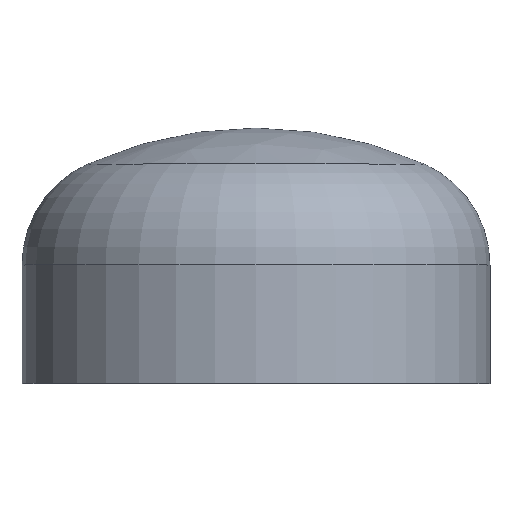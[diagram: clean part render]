
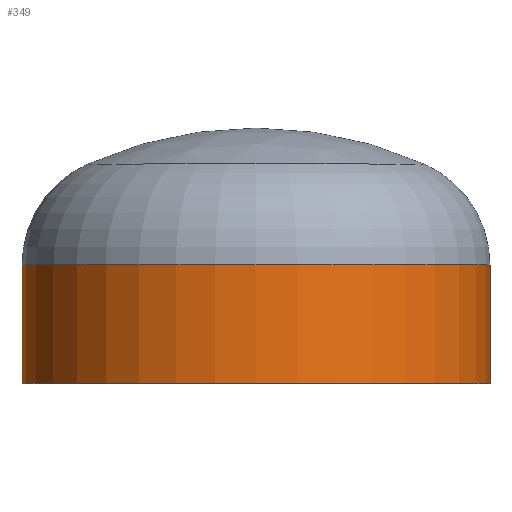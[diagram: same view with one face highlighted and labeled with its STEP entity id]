
A CAD part, top view. The second image highlights one B-rep face of the part: STEP entity #349.
In plain terms, the highlighted cylindrical face has radius 177.8 mm (diameter 355.6 mm), a partial arc.
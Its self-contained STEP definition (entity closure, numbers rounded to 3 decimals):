
#1 = AXIS2_PLACEMENT_3D ( 'NONE', #220, #171, #268 ) ;
#23 = ORIENTED_EDGE ( 'NONE', *, *, #108, .T. ) ;
#35 = VERTEX_POINT ( 'NONE', #262 ) ;
#46 = ORIENTED_EDGE ( 'NONE', *, *, #363, .F. ) ;
#53 = CIRCLE ( 'NONE', #107, 177.8 ) ;
#59 = EDGE_LOOP ( 'NONE', ( #318, #23, #46, #90 ) ) ;
#63 = VERTEX_POINT ( 'NONE', #283 ) ;
#68 = VERTEX_POINT ( 'NONE', #241 ) ;
#78 = CIRCLE ( 'NONE', #266, 177.8 ) ;
#87 = CARTESIAN_POINT ( 'NONE',  ( 0., 0., 0. ) ) ;
#90 = ORIENTED_EDGE ( 'NONE', *, *, #381, .F. ) ;
#92 = VERTEX_POINT ( 'NONE', #240 ) ;
#107 = AXIS2_PLACEMENT_3D ( 'NONE', #331, #329, #322 ) ;
#108 = EDGE_CURVE ( 'NONE', #68, #63, #134, .T. ) ;
#113 = EDGE_CURVE ( 'NONE', #92, #68, #53, .T. ) ;
#134 = LINE ( 'NONE', #221, #368 ) ;
#151 = DIRECTION ( 'NONE',  ( 0., -1., 0. ) ) ;
#153 = DIRECTION ( 'NONE',  ( 1., 0., 0. ) ) ;
#171 = DIRECTION ( 'NONE',  ( 0., -1., 0. ) ) ;
#217 = VECTOR ( 'NONE', #389, 1000. ) ;
#218 = DIRECTION ( 'NONE',  ( 0., -1., 0. ) ) ;
#220 = CARTESIAN_POINT ( 'NONE',  ( 0., 0., 0. ) ) ;
#221 = CARTESIAN_POINT ( 'NONE',  ( -177.8, 0., 0. ) ) ;
#226 = CARTESIAN_POINT ( 'NONE',  ( 177.8, 0., 0. ) ) ;
#240 = CARTESIAN_POINT ( 'NONE',  ( 177.8, 90., 0. ) ) ;
#241 = CARTESIAN_POINT ( 'NONE',  ( -177.8, 90., 0. ) ) ;
#262 = CARTESIAN_POINT ( 'NONE',  ( 177.8, 0., 0. ) ) ;
#266 = AXIS2_PLACEMENT_3D ( 'NONE', #87, #151, #153 ) ;
#268 = DIRECTION ( 'NONE',  ( 1., 0., 0. ) ) ;
#281 = LINE ( 'NONE', #226, #217 ) ;
#283 = CARTESIAN_POINT ( 'NONE',  ( -177.8, 0., 0. ) ) ;
#288 = CYLINDRICAL_SURFACE ( 'NONE', #1, 177.8 ) ;
#318 = ORIENTED_EDGE ( 'NONE', *, *, #113, .T. ) ;
#322 = DIRECTION ( 'NONE',  ( 1., 0., 0. ) ) ;
#329 = DIRECTION ( 'NONE',  ( 0., -1., 0. ) ) ;
#331 = CARTESIAN_POINT ( 'NONE',  ( 0., 90., 0. ) ) ;
#349 = ADVANCED_FACE ( 'NONE', ( #400 ), #288, .T. ) ;
#363 = EDGE_CURVE ( 'NONE', #35, #63, #78, .T. ) ;
#368 = VECTOR ( 'NONE', #218, 1000. ) ;
#381 = EDGE_CURVE ( 'NONE', #92, #35, #281, .T. ) ;
#389 = DIRECTION ( 'NONE',  ( 0., -1., 0. ) ) ;
#400 = FACE_OUTER_BOUND ( 'NONE', #59, .T. ) ;
